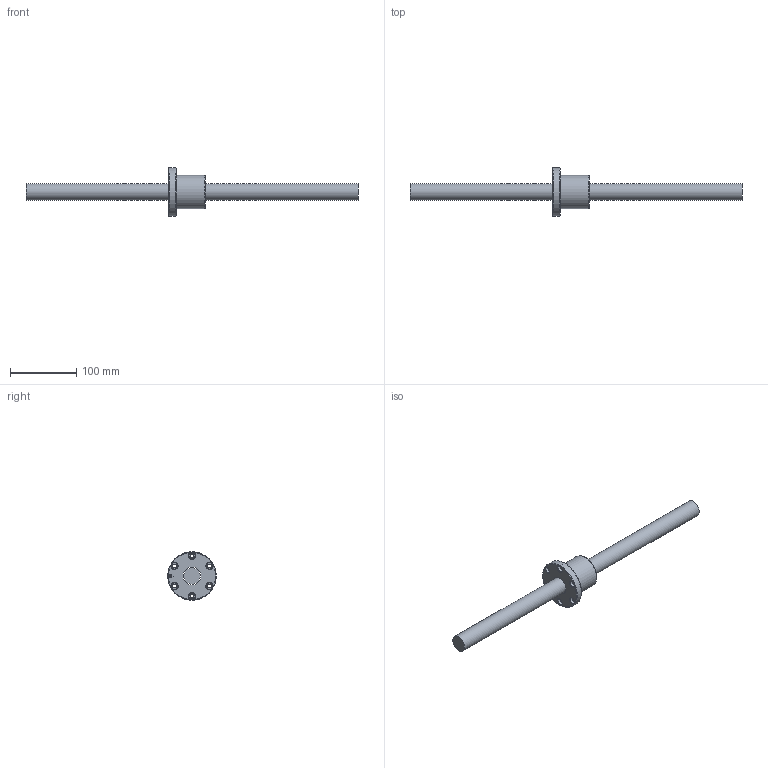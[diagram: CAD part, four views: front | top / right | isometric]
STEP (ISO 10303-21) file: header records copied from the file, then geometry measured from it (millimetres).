
FILE_DESCRIPTION (( 'STEP AP203' ), '1' );
FILE_NAME ('SFV02505N-4.8.step', '2024-05-20T03:38:08', ( '' ), ( '' ), 'SwSTEP 2.0', 'SolidWorks 2022', '' );
FILE_SCHEMA (( 'CONFIG_CONTROL_DESIGN' ));
Length unit declared in the file: millimetre
Products named in the file (1): SFV02505N-4.8
Bounding box: 500 x 73 x 73 mm (x, y, z)
Volume: 341834.1 mm3; surface area: 62838.7 mm2
Topology: 2 solids, 2 shells, 55 faces, 139 edges, 89 vertices
Faces by surface type: cylinder 23, cone 13, plane 12, bspline 4, torus 3
Full cylindrical faces by diameter (mm): 4 x1, 5.5 x6, 7 x5, 9.5 x6, 25 x1, 27.1 x1, 50 x1, 73 x1
Entity records: 3079 total; most frequent: CARTESIAN_POINT 2028, DIRECTION 206, ORIENTED_EDGE 148, EDGE_LOOP 102, AXIS2_PLACEMENT_3D 101, EDGE_CURVE 74, FACE_OUTER_BOUND 72, VERTEX_POINT 64
